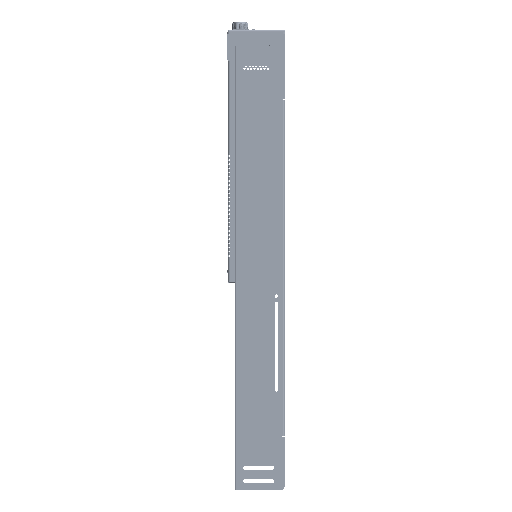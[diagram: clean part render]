
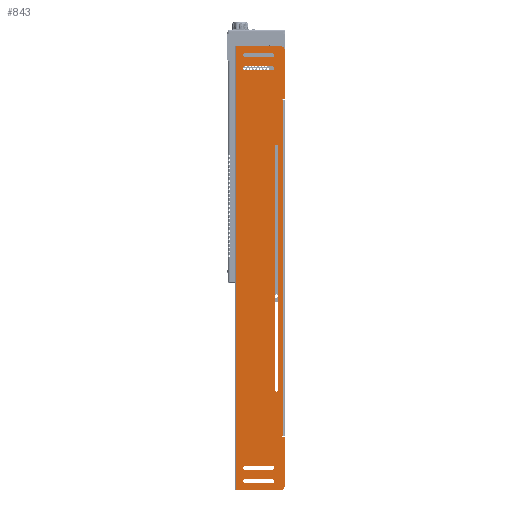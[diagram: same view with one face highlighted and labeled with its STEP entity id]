
A CAD part, top view. The second image highlights one B-rep face of the part: STEP entity #843.
In plain terms, the highlighted planar face has unit normal (0, 0, 1) as drawn and (0, 0, -1) by its records, which use the part's own axes.
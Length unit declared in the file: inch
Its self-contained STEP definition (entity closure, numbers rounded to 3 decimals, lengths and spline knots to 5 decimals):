
#1=DIRECTION('',(0.,1.,0.));
#2=VECTOR('',#1,2.674);
#3=CARTESIAN_POINT('',(-13.31,0.25,0.));
#4=LINE('',#3,#2);
#17=DIRECTION('',(-1.,0.,0.));
#18=VECTOR('',#17,26.62);
#19=CARTESIAN_POINT('',(13.31,2.924,0.));
#20=LINE('',#19,#18);
#35=CARTESIAN_POINT('',(-12.78,2.3775,0.));
#36=DIRECTION('',(0.,0.,-1.));
#37=DIRECTION('',(-1.,0.,0.));
#38=AXIS2_PLACEMENT_3D('',#35,#36,#37);
#40=DIRECTION('',(0.,-1.,0.));
#41=VECTOR('',#40,1.62);
#42=CARTESIAN_POINT('',(-12.655,2.3775,0.));
#43=LINE('',#42,#41);
#44=CARTESIAN_POINT('',(-12.78,0.7575,0.));
#45=DIRECTION('',(0.,0.,-1.));
#46=DIRECTION('',(1.,0.,0.));
#47=AXIS2_PLACEMENT_3D('',#44,#45,#46);
#49=DIRECTION('',(0.,1.,0.));
#50=VECTOR('',#49,1.62);
#51=CARTESIAN_POINT('',(-12.905,0.7575,0.));
#52=LINE('',#51,#50);
#53=CARTESIAN_POINT('',(12.78,2.3775,0.));
#54=DIRECTION('',(0.,0.,-1.));
#55=DIRECTION('',(-1.,0.,0.));
#56=AXIS2_PLACEMENT_3D('',#53,#54,#55);
#58=DIRECTION('',(0.,-1.,0.));
#59=VECTOR('',#58,1.62);
#60=CARTESIAN_POINT('',(12.905,2.3775,0.));
#61=LINE('',#60,#59);
#62=CARTESIAN_POINT('',(12.78,0.7575,0.));
#63=DIRECTION('',(0.,0.,-1.));
#64=DIRECTION('',(1.,0.,0.));
#65=AXIS2_PLACEMENT_3D('',#62,#63,#64);
#67=DIRECTION('',(0.,1.,0.));
#68=VECTOR('',#67,1.62);
#69=CARTESIAN_POINT('',(12.655,0.7575,0.));
#70=LINE('',#69,#68);
#71=DIRECTION('',(0.,-1.,0.));
#72=VECTOR('',#71,1.62);
#73=CARTESIAN_POINT('',(12.112,2.3775,0.));
#74=LINE('',#73,#72);
#75=CARTESIAN_POINT('',(11.987,0.7575,0.));
#76=DIRECTION('',(0.,0.,-1.));
#77=DIRECTION('',(1.,0.,0.));
#78=AXIS2_PLACEMENT_3D('',#75,#76,#77);
#80=DIRECTION('',(0.,1.,0.));
#81=VECTOR('',#80,1.62);
#82=CARTESIAN_POINT('',(11.862,0.7575,0.));
#83=LINE('',#82,#81);
#84=CARTESIAN_POINT('',(11.987,2.3775,0.));
#85=DIRECTION('',(0.,0.,-1.));
#86=DIRECTION('',(-1.,0.,0.));
#87=AXIS2_PLACEMENT_3D('',#84,#85,#86);
#89=CARTESIAN_POINT('',(-11.987,2.3775,0.));
#90=DIRECTION('',(0.,0.,-1.));
#91=DIRECTION('',(-1.,0.,0.));
#92=AXIS2_PLACEMENT_3D('',#89,#90,#91);
#94=DIRECTION('',(0.,-1.,0.));
#95=VECTOR('',#94,1.62);
#96=CARTESIAN_POINT('',(-11.862,2.3775,0.));
#97=LINE('',#96,#95);
#98=CARTESIAN_POINT('',(-11.987,0.7575,0.));
#99=DIRECTION('',(0.,0.,-1.));
#100=DIRECTION('',(1.,0.,0.));
#101=AXIS2_PLACEMENT_3D('',#98,#99,#100);
#103=DIRECTION('',(0.,1.,0.));
#104=VECTOR('',#103,1.62);
#105=CARTESIAN_POINT('',(-12.112,0.7575,0.));
#106=LINE('',#105,#104);
#107=DIRECTION('',(1.,0.,0.));
#108=VECTOR('',#107,14.62);
#109=CARTESIAN_POINT('',(-7.31,0.4015,0.));
#110=LINE('',#109,#108);
#111=CARTESIAN_POINT('',(-7.31,0.502,0.));
#112=DIRECTION('',(0.,0.,1.));
#113=DIRECTION('',(0.,1.,0.));
#114=AXIS2_PLACEMENT_3D('',#111,#112,#113);
#116=DIRECTION('',(-1.,0.,0.));
#117=VECTOR('',#116,14.62);
#118=CARTESIAN_POINT('',(7.31,0.6025,0.));
#119=LINE('',#118,#117);
#120=CARTESIAN_POINT('',(7.31,0.502,0.));
#121=DIRECTION('',(0.,0.,1.));
#122=DIRECTION('',(0.,-1.,0.));
#123=AXIS2_PLACEMENT_3D('',#120,#121,#122);
#125=DIRECTION('',(-1.,0.,0.));
#126=VECTOR('',#125,20.12);
#127=CARTESIAN_POINT('',(10.06,0.093,0.));
#128=LINE('',#127,#126);
#129=DIRECTION('',(0.,1.,0.));
#130=VECTOR('',#129,0.059);
#131=CARTESIAN_POINT('',(10.06,0.093,0.));
#132=LINE('',#131,#130);
#133=CARTESIAN_POINT('',(10.09,0.152,0.));
#134=DIRECTION('',(0.,0.,-1.));
#135=DIRECTION('',(-1.,0.,0.));
#136=AXIS2_PLACEMENT_3D('',#133,#134,#135);
#138=DIRECTION('',(0.,1.,0.));
#139=VECTOR('',#138,0.152);
#140=CARTESIAN_POINT('',(10.12,0.,0.));
#141=LINE('',#140,#139);
#142=DIRECTION('',(1.,0.,0.));
#143=VECTOR('',#142,2.94);
#144=CARTESIAN_POINT('',(10.12,0.,0.));
#145=LINE('',#144,#143);
#146=DIRECTION('',(1.,0.,0.));
#147=VECTOR('',#146,2.94);
#148=CARTESIAN_POINT('',(-13.06,0.,0.));
#149=LINE('',#148,#147);
#150=DIRECTION('',(0.,1.,0.));
#151=VECTOR('',#150,0.152);
#152=CARTESIAN_POINT('',(-10.12,0.,0.));
#153=LINE('',#152,#151);
#154=CARTESIAN_POINT('',(-10.09,0.152,0.));
#155=DIRECTION('',(0.,0.,-1.));
#156=DIRECTION('',(-1.,0.,0.));
#157=AXIS2_PLACEMENT_3D('',#154,#155,#156);
#159=DIRECTION('',(0.,1.,0.));
#160=VECTOR('',#159,0.059);
#161=CARTESIAN_POINT('',(-10.06,0.093,0.));
#162=LINE('',#161,#160);
#468=CARTESIAN_POINT('',(13.06,0.25,0.));
#469=DIRECTION('',(0.,0.,-1.));
#470=DIRECTION('',(1.,0.,0.));
#471=AXIS2_PLACEMENT_3D('',#468,#469,#470);
#473=DIRECTION('',(0.,1.,0.));
#474=VECTOR('',#473,2.674);
#475=CARTESIAN_POINT('',(13.31,0.25,0.));
#476=LINE('',#475,#474);
#489=CARTESIAN_POINT('',(-13.06,0.25,0.));
#490=DIRECTION('',(0.,0.,-1.));
#491=DIRECTION('',(0.,-1.,0.));
#492=AXIS2_PLACEMENT_3D('',#489,#490,#491);
#559=CARTESIAN_POINT('',(-12.905,2.3775,0.));
#560=CARTESIAN_POINT('',(-12.655,2.3775,0.));
#561=VERTEX_POINT('',#559);
#562=VERTEX_POINT('',#560);
#563=CARTESIAN_POINT('',(-12.655,0.7575,0.));
#564=VERTEX_POINT('',#563);
#565=CARTESIAN_POINT('',(-12.905,0.7575,0.));
#566=VERTEX_POINT('',#565);
#567=CARTESIAN_POINT('',(12.655,2.3775,0.));
#568=CARTESIAN_POINT('',(12.905,2.3775,0.));
#569=VERTEX_POINT('',#567);
#570=VERTEX_POINT('',#568);
#571=CARTESIAN_POINT('',(12.905,0.7575,0.));
#572=VERTEX_POINT('',#571);
#573=CARTESIAN_POINT('',(12.655,0.7575,0.));
#574=VERTEX_POINT('',#573);
#583=CARTESIAN_POINT('',(-13.06,0.,0.));
#585=VERTEX_POINT('',#583);
#587=CARTESIAN_POINT('',(-13.31,0.25,0.));
#588=VERTEX_POINT('',#587);
#608=CARTESIAN_POINT('',(13.06,0.,0.));
#610=VERTEX_POINT('',#608);
#613=CARTESIAN_POINT('',(13.31,0.25,0.));
#614=VERTEX_POINT('',#613);
#627=CARTESIAN_POINT('',(10.12,0.,0.));
#628=VERTEX_POINT('',#627);
#629=CARTESIAN_POINT('',(-10.12,0.,0.));
#630=VERTEX_POINT('',#629);
#631=CARTESIAN_POINT('',(10.06,0.152,0.));
#632=CARTESIAN_POINT('',(10.12,0.152,0.));
#633=VERTEX_POINT('',#631);
#634=VERTEX_POINT('',#632);
#635=CARTESIAN_POINT('',(-10.12,0.152,0.));
#636=VERTEX_POINT('',#635);
#637=CARTESIAN_POINT('',(-10.06,0.152,0.));
#638=VERTEX_POINT('',#637);
#643=CARTESIAN_POINT('',(13.31,2.924,0.));
#644=CARTESIAN_POINT('',(-13.31,2.924,0.));
#645=VERTEX_POINT('',#643);
#646=VERTEX_POINT('',#644);
#655=CARTESIAN_POINT('',(-7.31,0.4015,0.));
#656=CARTESIAN_POINT('',(7.31,0.4015,0.));
#657=VERTEX_POINT('',#655);
#658=VERTEX_POINT('',#656);
#659=CARTESIAN_POINT('',(7.31,0.6025,0.));
#660=CARTESIAN_POINT('',(-7.31,0.6025,0.));
#661=VERTEX_POINT('',#659);
#662=VERTEX_POINT('',#660);
#679=CARTESIAN_POINT('',(12.112,2.3775,0.));
#680=CARTESIAN_POINT('',(12.112,0.7575,0.));
#681=VERTEX_POINT('',#679);
#682=VERTEX_POINT('',#680);
#683=CARTESIAN_POINT('',(11.862,0.7575,0.));
#684=VERTEX_POINT('',#683);
#685=CARTESIAN_POINT('',(11.862,2.3775,0.));
#686=VERTEX_POINT('',#685);
#687=CARTESIAN_POINT('',(-12.112,2.3775,0.));
#688=CARTESIAN_POINT('',(-11.862,2.3775,0.));
#689=VERTEX_POINT('',#687);
#690=VERTEX_POINT('',#688);
#691=CARTESIAN_POINT('',(-11.862,0.7575,0.));
#692=VERTEX_POINT('',#691);
#693=CARTESIAN_POINT('',(-12.112,0.7575,0.));
#694=VERTEX_POINT('',#693);
#703=CARTESIAN_POINT('',(-10.06,0.093,0.));
#705=VERTEX_POINT('',#703);
#709=CARTESIAN_POINT('',(10.06,0.093,0.));
#710=VERTEX_POINT('',#709);
#760=CARTESIAN_POINT('',(-13.31,0.,0.));
#761=DIRECTION('',(0.,0.,-1.));
#762=DIRECTION('',(0.,1.,0.));
#763=AXIS2_PLACEMENT_3D('',#760,#761,#762);
#764=PLANE('',#763);
#766=ORIENTED_EDGE('',*,*,#765,.F.);
#768=ORIENTED_EDGE('',*,*,#767,.T.);
#770=ORIENTED_EDGE('',*,*,#769,.T.);
#772=ORIENTED_EDGE('',*,*,#771,.F.);
#774=ORIENTED_EDGE('',*,*,#773,.T.);
#776=ORIENTED_EDGE('',*,*,#775,.F.);
#778=ORIENTED_EDGE('',*,*,#777,.T.);
#779=ORIENTED_EDGE('',*,*,#751,.T.);
#780=ORIENTED_EDGE('',*,*,#724,.F.);
#782=ORIENTED_EDGE('',*,*,#781,.F.);
#784=ORIENTED_EDGE('',*,*,#783,.T.);
#786=ORIENTED_EDGE('',*,*,#785,.T.);
#788=ORIENTED_EDGE('',*,*,#787,.T.);
#790=ORIENTED_EDGE('',*,*,#789,.F.);
#791=EDGE_LOOP('',(#766,#768,#770,#772,#774,#776,#778,#779,#780,#782,#784,#786,
#788,#790));
#792=FACE_OUTER_BOUND('',#791,.F.);
#794=ORIENTED_EDGE('',*,*,#793,.T.);
#796=ORIENTED_EDGE('',*,*,#795,.T.);
#798=ORIENTED_EDGE('',*,*,#797,.T.);
#800=ORIENTED_EDGE('',*,*,#799,.T.);
#801=EDGE_LOOP('',(#794,#796,#798,#800));
#802=FACE_BOUND('',#801,.F.);
#804=ORIENTED_EDGE('',*,*,#803,.T.);
#806=ORIENTED_EDGE('',*,*,#805,.T.);
#808=ORIENTED_EDGE('',*,*,#807,.T.);
#810=ORIENTED_EDGE('',*,*,#809,.T.);
#811=EDGE_LOOP('',(#804,#806,#808,#810));
#812=FACE_BOUND('',#811,.F.);
#814=ORIENTED_EDGE('',*,*,#813,.T.);
#816=ORIENTED_EDGE('',*,*,#815,.T.);
#818=ORIENTED_EDGE('',*,*,#817,.T.);
#820=ORIENTED_EDGE('',*,*,#819,.T.);
#821=EDGE_LOOP('',(#814,#816,#818,#820));
#822=FACE_BOUND('',#821,.F.);
#824=ORIENTED_EDGE('',*,*,#823,.F.);
#826=ORIENTED_EDGE('',*,*,#825,.F.);
#828=ORIENTED_EDGE('',*,*,#827,.F.);
#830=ORIENTED_EDGE('',*,*,#829,.F.);
#831=EDGE_LOOP('',(#824,#826,#828,#830));
#832=FACE_BOUND('',#831,.F.);
#834=ORIENTED_EDGE('',*,*,#833,.T.);
#836=ORIENTED_EDGE('',*,*,#835,.T.);
#838=ORIENTED_EDGE('',*,*,#837,.T.);
#840=ORIENTED_EDGE('',*,*,#839,.T.);
#841=EDGE_LOOP('',(#834,#836,#838,#840));
#842=FACE_BOUND('',#841,.F.);
#843=ADVANCED_FACE('',(#792,#802,#812,#822,#832,#842),#764,.T.);
#39=CIRCLE('',#38,0.125);
#48=CIRCLE('',#47,0.125);
#57=CIRCLE('',#56,0.125);
#66=CIRCLE('',#65,0.125);
#79=CIRCLE('',#78,0.125);
#88=CIRCLE('',#87,0.125);
#93=CIRCLE('',#92,0.125);
#102=CIRCLE('',#101,0.125);
#115=CIRCLE('',#114,0.1005);
#124=CIRCLE('',#123,0.1005);
#137=CIRCLE('',#136,0.03);
#158=CIRCLE('',#157,0.03);
#472=CIRCLE('',#471,0.25);
#493=CIRCLE('',#492,0.25);
#724=EDGE_CURVE('',#588,#646,#4,.T.);
#751=EDGE_CURVE('',#645,#646,#20,.T.);
#765=EDGE_CURVE('',#710,#705,#128,.T.);
#767=EDGE_CURVE('',#710,#633,#132,.T.);
#769=EDGE_CURVE('',#633,#634,#137,.T.);
#771=EDGE_CURVE('',#628,#634,#141,.T.);
#773=EDGE_CURVE('',#628,#610,#145,.T.);
#775=EDGE_CURVE('',#614,#610,#472,.T.);
#777=EDGE_CURVE('',#614,#645,#476,.T.);
#781=EDGE_CURVE('',#585,#588,#493,.T.);
#783=EDGE_CURVE('',#585,#630,#149,.T.);
#785=EDGE_CURVE('',#630,#636,#153,.T.);
#787=EDGE_CURVE('',#636,#638,#158,.T.);
#789=EDGE_CURVE('',#705,#638,#162,.T.);
#793=EDGE_CURVE('',#569,#570,#57,.T.);
#795=EDGE_CURVE('',#570,#572,#61,.T.);
#797=EDGE_CURVE('',#572,#574,#66,.T.);
#799=EDGE_CURVE('',#574,#569,#70,.T.);
#803=EDGE_CURVE('',#681,#682,#74,.T.);
#805=EDGE_CURVE('',#682,#684,#79,.T.);
#807=EDGE_CURVE('',#684,#686,#83,.T.);
#809=EDGE_CURVE('',#686,#681,#88,.T.);
#813=EDGE_CURVE('',#689,#690,#93,.T.);
#815=EDGE_CURVE('',#690,#692,#97,.T.);
#817=EDGE_CURVE('',#692,#694,#102,.T.);
#819=EDGE_CURVE('',#694,#689,#106,.T.);
#823=EDGE_CURVE('',#657,#658,#110,.T.);
#825=EDGE_CURVE('',#662,#657,#115,.T.);
#827=EDGE_CURVE('',#661,#662,#119,.T.);
#829=EDGE_CURVE('',#658,#661,#124,.T.);
#833=EDGE_CURVE('',#561,#562,#39,.T.);
#835=EDGE_CURVE('',#562,#564,#43,.T.);
#837=EDGE_CURVE('',#564,#566,#48,.T.);
#839=EDGE_CURVE('',#566,#561,#52,.T.);
